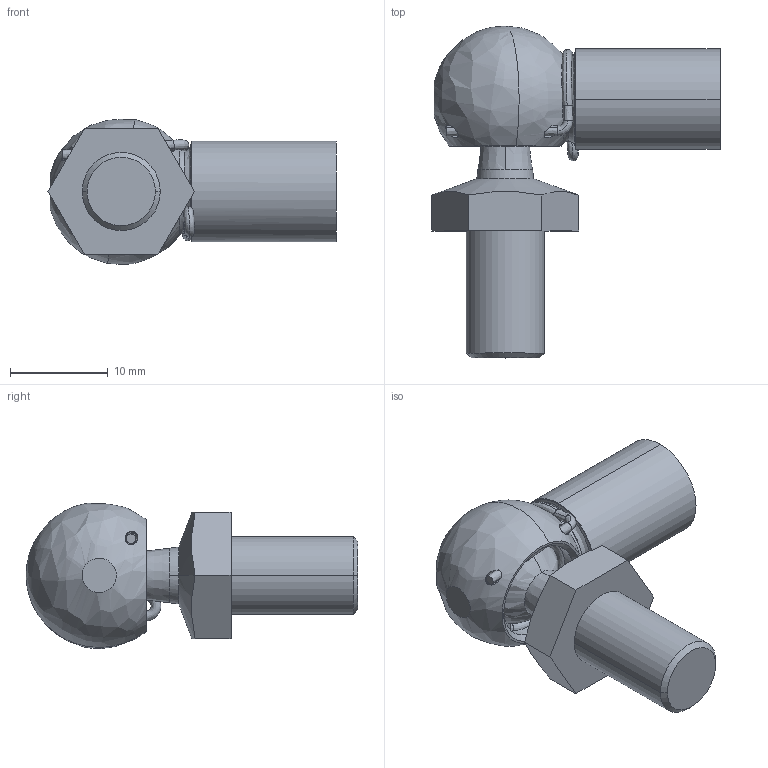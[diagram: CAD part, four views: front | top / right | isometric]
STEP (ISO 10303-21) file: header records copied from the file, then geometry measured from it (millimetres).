
FILE_DESCRIPTION (( 'STEP AP214' ), '1' );
FILE_NAME ('13.CS10M6M8.STEP', '2017-11-19T10:53:30', ( '' ), ( '' ), 'SwSTEP 2.0', 'SolidWorks 2016', '' );
FILE_SCHEMA (( 'AUTOMOTIVE_DESIGN' ));
Length unit declared in the file: millimetre
Products named in the file (1): 13.CS10M6M8
Bounding box: 29.51 x 34 x 14.87 mm (x, y, z)
Volume: 3768.5 mm3; surface area: 2950.3 mm2
Topology: 1 solids, 1 shells, 90 faces, 276 edges, 177 vertices
Faces by surface type: bspline 35, plane 20, cylinder 18, cone 17
Entity records: 9838 total; most frequent: CARTESIAN_POINT 7658, ORIENTED_EDGE 528, DIRECTION 363, EDGE_CURVE 264, VERTEX_POINT 177, AXIS2_PLACEMENT_3D 154, EDGE_LOOP 101, CIRCLE 98
